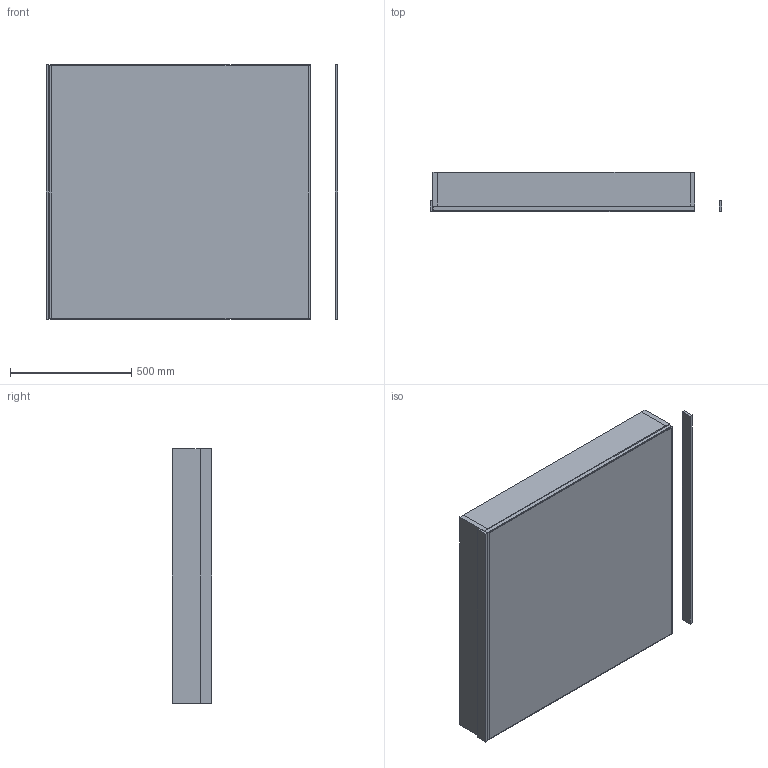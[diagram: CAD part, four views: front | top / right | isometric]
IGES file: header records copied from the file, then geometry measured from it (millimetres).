
Start section: Data from Parasolid IGES Translator 19.0.9, Copyright(c) 2006 Siemens PL M Software. All Rights Reserved.
Global section: file name: noorth-mirror-H 105 D 4,5-16 W 108_9160.igs; native system: By Siemens PLM Incorporated; preprocessor: XPlus GENERIC/IGES 19.0.9; author: Noname; organization: Noname; date: 20200519.114259; units: metre
Bounding box: 1203.82 x 162 x 1050 mm (x, y, z)
Volume: 37689654.3 mm3; surface area: 8380351.3 mm2
Topology: 10 solids, 10 shells, 84 faces, 168 edges, 104 vertices
Faces by surface type: plane 84
